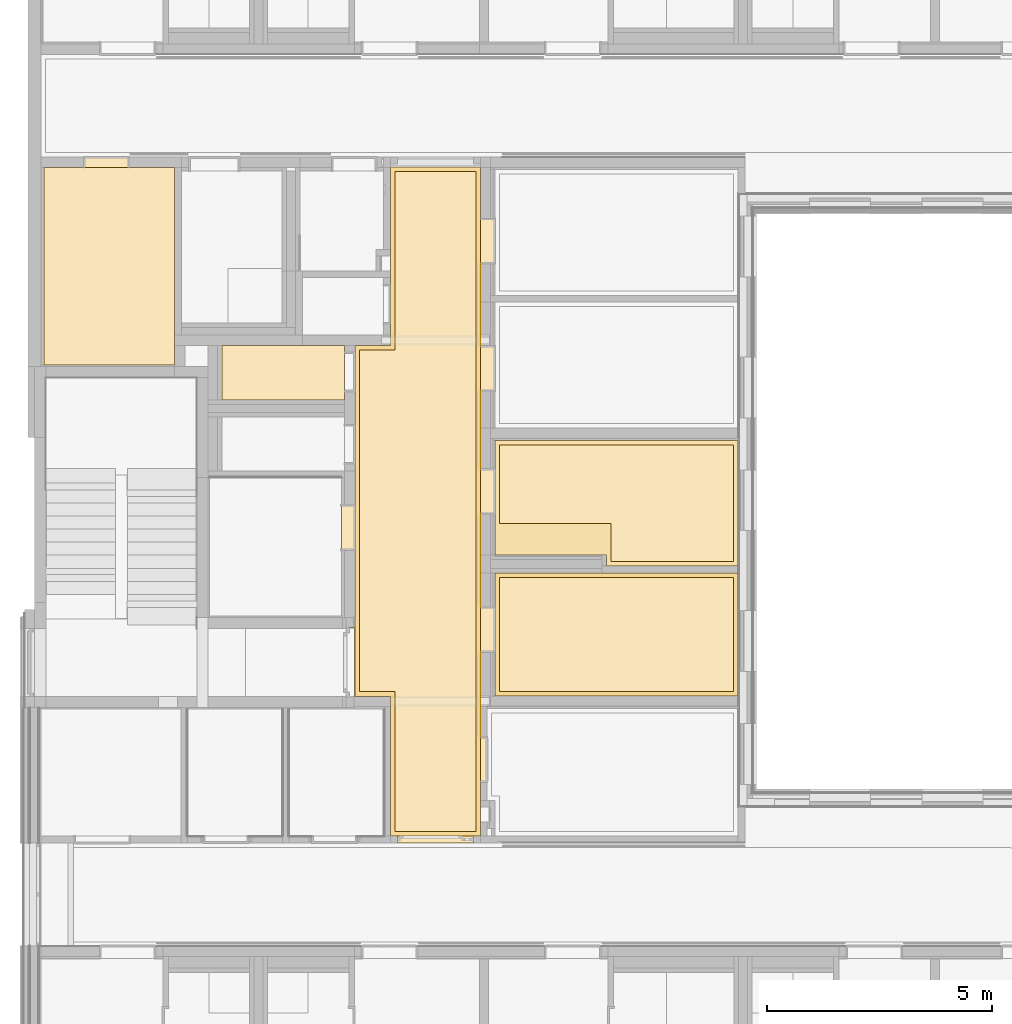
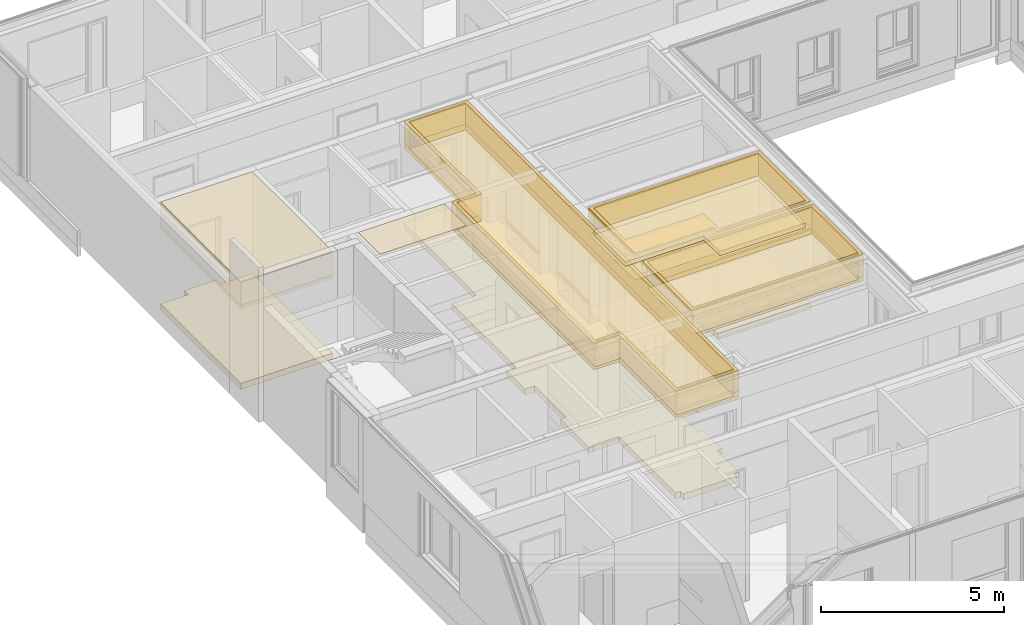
# One storey, part 162 of 207: 32 coverings.
"""IFC4 building model written with IfcOpenShell, lengths in metres."""

from ifc_helpers import new_model, entity, si_unit, converted_unit, derived_unit, frame, frame_2d, origin, origin_with_axes, place, context, subcontext, project, spatial, polyline, rectangle, outline, extrude, material, layer, layer_set, layer_usage, element, save


model = new_model("IFC4")

# Units and contexts
model_context = context("Model", 3, precision=1e-05, world=origin())
body_context = subcontext(model_context, "Body", "Model", "MODEL_VIEW")
ifc_project = project(units=[si_unit("LENGTHUNIT", "METRE"), si_unit("AREAUNIT", "SQUARE_METRE"), si_unit("VOLUMEUNIT", "CUBIC_METRE"), si_unit("MASSUNIT", "GRAM", prefix="KILO"), converted_unit("PLANEANGLEUNIT", "DEGREE", entity("IfcPlaneAngleMeasure", 0.0174532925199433), si_unit("PLANEANGLEUNIT", "RADIAN"), dimensions=[0, 0, 0, 0, 0, 0, 0]), derived_unit("THERMALTRANSMITTANCEUNIT", [(si_unit("POWERUNIT", "WATT"), 1), (si_unit("THERMODYNAMICTEMPERATUREUNIT", "KELVIN"), -1), (si_unit("LENGTHUNIT", "METRE"), -2)]), derived_unit("VOLUMETRICFLOWRATEUNIT", [(si_unit("LENGTHUNIT", "METRE"), 3), (converted_unit("TIMEUNIT", "hour", entity("IfcTimeMeasure", 3600.0), si_unit("TIMEUNIT", "SECOND"), dimensions=[0, 0, 1, 0, 0, 0, 0]), -1), (si_unit("LENGTHUNIT", "METRE"), -1)])], contexts=[model_context])

# Site, building, storey, space
site_placement = place(None, origin())
site = spatial("IfcSite", under=ifc_project, at=site_placement, Name="Psychiatrie Neubau Wunstorf", CompositionType="ELEMENT")
building_placement = place(site_placement, origin())
building = spatial("IfcBuilding", under=site, at=building_placement, Name="Neubau H2 Stationsgebäude", CompositionType="ELEMENT")
storey_placement = place(building_placement, frame((0.0, 0.0, -0.2)))
storey = spatial("IfcBuildingStorey", under=building, at=storey_placement, Name="H2 Ebene 0", CompositionType="ELEMENT", Elevation=-0.2)
space_1_placement = place(storey_placement, frame((7.1409987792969, 6.77999989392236, 0.0)))
space_1 = spatial("IfcSpace", under=storey, at=space_1_placement, Name="WUN-H2-E00-F05", CompositionType="ELEMENT")

# Coverings
ifc_material_1 = material(Name="97")
ifc_layer_1 = layer(ifc_material_1, 0.001)
ifc_layer_set_1 = layer_set([ifc_layer_1])
ifc_layer_usage_1 = layer_usage(ifc_layer_set_1, "AXIS3", "POSITIVE", 0.0)
covering_1_placement = place(space_1_placement, frame((2.77650123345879, 2.195, 0.8)))
element("IfcCovering", 1, at=covering_1_placement, inside=space_1, material=ifc_layer_usage_1, Name="Handlauf", PredefinedType="CLADDING", context=body_context, shape_type="SweptSolid", body=[
    extrude(rectangle(XDim=0.1, YDim=2.05399989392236, at=frame_2d((1.02699994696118, 0.05), x_axis=(0.0, 1.0))), frame((0.0, 2.88600010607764, 0.1), z_axis=(-1.0, -1.66545093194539e-09, -9.09494701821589e-15), x_axis=(-1.66545093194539e-09, 1.0, 0.0)), (0.0, 0.0, 1.0), 0.001),
    extrude(rectangle(XDim=0.1, YDim=1.81398678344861, at=frame_2d((0.906993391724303, 0.05), x_axis=(0.0, 1.0))), frame((0.0, 8.67901332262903, 0.1), z_axis=(-1.0, -1.6654503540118e-09, 0.0), x_axis=(-1.6654503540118e-09, 1.0, 0.0)), (0.0, 0.0, 1.0), 0.001),
    extrude(rectangle(XDim=0.1, YDim=1.71901332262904, at=frame_2d((0.859506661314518, 0.05), x_axis=(0.0, 1.0))), frame((0.0, 5.95, 0.1), z_axis=(-1.0, -1.6654512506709e-09, 0.0), x_axis=(-1.6654512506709e-09, 1.0, 0.0)), (0.0, 0.0, 1.0), 0.001),
    extrude(rectangle(XDim=0.1, YDim=1.87600010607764, at=frame_2d((-0.938000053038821, -0.05), x_axis=(0.0, -1.0))), frame((0.0, 1.87600010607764, 0.0), z_axis=(-1.0, -1.6654509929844e-09, 9.09494701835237e-15), x_axis=(-1.6654509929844e-09, 1.0, 0.0)), (0.0, 0.0, 1.0), 0.001),
])
ifc_material_2 = material(Name="Ku1")
ifc_layer_2 = layer(ifc_material_2, 0.2)
ifc_layer_set_2 = layer_set([ifc_layer_2])
ifc_layer_usage_2 = layer_usage(ifc_layer_set_2, "AXIS3", "POSITIVE", 0.0)
covering_2_placement = place(space_1_placement, frame((-0.307000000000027, -0.155, 0.0)))
element("IfcCovering", 2, at=covering_2_placement, inside=space_1, material=ifc_layer_usage_2, Name="PVC Bahnenware Holzoptik", PredefinedType="FLOORING", context=body_context, shape_type="SweptSolid", body=[
    extrude(rectangle(XDim=0.3215, YDim=1.01, at=frame_2d((-0.16075, -0.505), x_axis=(-1.0, 0.0))), frame((3.40500124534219, 5.23600010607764, 0.0), z_axis=(0.0, 0.0, 1.0), x_axis=(1.0, 0.0, 0.0)), (0.0, 0.0, 1.0), 0.2),
    extrude(rectangle(XDim=0.15, YDim=1.01, at=frame_2d((-0.075, -0.505), x_axis=(-1.0, 0.0))), frame((3.23350124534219, 2.35, 0.0), z_axis=(0.0, 0.0, 1.0), x_axis=(1.0, 0.0, 0.0)), (0.0, 0.0, 1.0), 0.2),
    extrude(rectangle(XDim=0.155, YDim=1.6825, at=frame_2d((-0.84125, 0.0775), x_axis=(0.0, 1.0))), frame((2.92850123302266, 0.0, 0.0), z_axis=(0.0, 0.0, 1.0), x_axis=(1.0, 0.0, 0.0)), (0.0, 0.0, 1.0), 0.2),
    extrude(rectangle(XDim=0.307, YDim=1.01, at=frame_2d((0.1535, 0.505), x_axis=(1.0, 0.0))), frame((0.0, 6.49, 0.0), z_axis=(0.0, 0.0, 1.0), x_axis=(1.0, 0.0, 0.0)), (0.0, 0.0, 1.0), 0.2),
    extrude(outline(polyline([(0.154989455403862, 0.0300129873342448), (0.185011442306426, 0.0300129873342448), (0.185000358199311, 1.56), (0.0, 1.56), (2.18644205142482e-06, 0.0), (0.154978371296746, 0.0), (0.154989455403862, 0.0300129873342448)])), frame((0.121999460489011, 3.21998786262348, 0.0), z_axis=(0.0, 0.0, 1.0), x_axis=(1.0, 0.0, 0.0)), (0.0, 0.0, 1.0), 0.2),
    extrude(rectangle(XDim=1.01, YDim=0.3215, at=frame_2d((0.16075, -0.505), x_axis=(0.0, -1.0))), frame((3.0835012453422, 8.3, 0.0), z_axis=(0.0, 0.0, 1.0), x_axis=(1.0, 0.0, 0.0)), (0.0, 0.0, 1.0), 0.2),
    extrude(rectangle(XDim=0.3215, YDim=1.01, at=frame_2d((-0.16075, -0.505), x_axis=(-1.0, 0.0))), frame((3.40500124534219, 13.8530001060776, 0.0), z_axis=(0.0, 0.0, 1.0), x_axis=(1.0, 0.0, 0.0)), (0.0, 0.0, 1.0), 0.2),
    extrude(rectangle(XDim=1.01, YDim=0.3215, at=frame_2d((0.16075, -0.505), x_axis=(0.0, -1.0))), frame((3.0835012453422, 11.029013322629, 0.0), z_axis=(0.0, 0.0, 1.0), x_axis=(1.0, 0.0, 0.0)), (0.0, 0.0, 1.0), 0.2),
    extrude(outline(polyline([(0.783993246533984, 10.8740133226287), (0.0, 10.8740133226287), (1.09027954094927e-05, 3.09500084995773), (0.784012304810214, 3.09500084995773), (0.784001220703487, 0.0), (2.77650124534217, 0.0), (2.7765012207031, 14.8410001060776), (0.784001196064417, 14.8410001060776), (0.783993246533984, 10.8740133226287)])), frame((0.307000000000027, 0.155, 0.0), z_axis=(0.0, 0.0, 1.0), x_axis=(1.0, 0.0, 0.0)), (0.0, 0.0, 1.0), 0.2),
])
ifc_material_3 = material()
ifc_layer_3 = layer(ifc_material_3, 0.036)
ifc_layer_set_3 = layer_set([ifc_layer_3])
ifc_layer_usage_3 = layer_usage(ifc_layer_set_3, "AXIS3", "POSITIVE", 0.0)
covering_3_placement = place(space_1_placement, frame((0.0999999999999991, 0.1, 3.6)))
element("IfcCovering", 3, at=covering_3_placement, inside=space_1, material=ifc_layer_usage_3, Name="Gipsfaserplatten 2-lagig (BSK)", PredefinedType="CEILING", context=body_context, shape_type="SweptSolid", body=[
    extrude(outline(polyline([(0.78400122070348, 14.6410001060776), (0.784001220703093, 11.5390005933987), (0.0, 11.5390005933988), (0.0, 3.9669867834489), (0.783993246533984, 3.9669867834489), (0.784001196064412, 0.0), (2.57650120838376, 0.0), (2.57650123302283, 14.6410001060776), (0.78400122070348, 14.6410001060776)])), frame((0.0, 14.6410001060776, 0.0), z_axis=(0.0, 0.0, -1.0), x_axis=(1.0, 0.0, 0.0)), (0.0, 0.0, 1.0), 0.036),
])
ifc_material_4 = material(Name="Installationshöhe")
ifc_layer_4 = layer(ifc_material_4, 0.664)
ifc_layer_set_4 = layer_set([ifc_layer_4])
ifc_layer_usage_4 = layer_usage(ifc_layer_set_4, "AXIS3", "POSITIVE", 0.0)
covering_4_placement = place(space_1_placement, frame((0.0999999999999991, 0.1, 3.564)))
element("IfcCovering", 4, at=covering_4_placement, inside=space_1, material=ifc_layer_usage_4, Name="Gipsfaserplatten 2-lagig (BSK)", PredefinedType="CEILING", context=body_context, shape_type="SweptSolid", body=[
    extrude(outline(polyline([(0.78400122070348, 14.6410001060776), (0.784001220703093, 11.5390005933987), (0.0, 11.5390005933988), (0.0, 3.9669867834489), (0.783993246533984, 3.9669867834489), (0.784001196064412, 0.0), (2.57650120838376, 0.0), (2.57650123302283, 14.6410001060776), (0.78400122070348, 14.6410001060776)])), frame((0.0, 14.6410001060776, 0.0), z_axis=(0.0, 0.0, -1.0), x_axis=(1.0, 0.0, 0.0)), (0.0, 0.0, 1.0), 0.664),
])
ifc_material_5 = material(Name="Aa")
ifc_layer_5 = layer(ifc_material_5, 0.2)
ifc_layer_set_5 = layer_set([ifc_layer_5])
ifc_layer_usage_5 = layer_usage(ifc_layer_set_5, "AXIS3", "POSITIVE", 0.0)
covering_5_placement = place(space_1_placement, frame((0.0999999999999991, 0.1, 2.9)))
element("IfcCovering", 5, at=covering_5_placement, inside=space_1, material=ifc_layer_usage_5, Name="Gipsfaserplatten 2-lagig (BSK)", PredefinedType="CEILING", context=body_context, shape_type="SweptSolid", body=[
    extrude(outline(polyline([(0.78400122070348, 14.6410001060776), (0.784001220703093, 11.5390005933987), (0.0, 11.5390005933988), (0.0, 3.9669867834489), (0.783993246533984, 3.9669867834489), (0.784001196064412, 0.0), (2.57650120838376, 0.0), (2.57650123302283, 14.6410001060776), (0.78400122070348, 14.6410001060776)])), frame((0.0, 14.6410001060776, 0.0), z_axis=(0.0, 0.0, -1.0), x_axis=(1.0, 0.0, 0.0)), (0.0, 0.0, 1.0), 0.2),
])
ifc_material_6 = material(Name="D1")
ifc_layer_6 = layer(ifc_material_6, 0.001)
ifc_layer_set_6 = layer_set([ifc_layer_6])
ifc_layer_usage_6 = layer_usage(ifc_layer_set_6, "AXIS3", "POSITIVE", 0.0)
covering_6_placement = place(space_1_placement, frame((0.0999999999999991, 0.1, 2.7)))
element("IfcCovering", 6, at=covering_6_placement, inside=space_1, material=ifc_layer_usage_6, Name="Gipsfaserplatten 2-lagig (BSK)", PredefinedType="CEILING", context=body_context, shape_type="SweptSolid", body=[
    extrude(outline(polyline([(0.78400122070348, 14.6410001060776), (0.784001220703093, 11.5390005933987), (0.0, 11.5390005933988), (0.0, 3.9669867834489), (0.783993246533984, 3.9669867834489), (0.784001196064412, 0.0), (2.57650120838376, 0.0), (2.57650123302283, 14.6410001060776), (0.78400122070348, 14.6410001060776)])), frame((0.0, 14.6410001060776, 0.0), z_axis=(0.0, 0.0, -1.0), x_axis=(1.0, 0.0, 0.0)), (0.0, 0.0, 1.0), 0.001),
])
ifc_material_7 = material()
ifc_layer_7 = layer(ifc_material_7, 0.036)
ifc_layer_set_7 = layer_set([ifc_layer_7])
ifc_layer_usage_7 = layer_usage(ifc_layer_set_7, "AXIS3", "POSITIVE", 0.0)
covering_7_placement = place(space_1_placement, frame((0.0, 0.0, 3.6)))
element("IfcCovering", 7, at=covering_7_placement, inside=space_1, material=ifc_layer_usage_7, Name="Gipsfaserplatten 2-lagig (BSK)", PredefinedType="CEILING", context=body_context, shape_type="SweptSolid", body=[
    extrude(outline(polyline([(0.0, 3.9669867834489), (0.783993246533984, 3.9669867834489), (0.784001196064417, 0.0), (2.7765012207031, 0.0), (2.77650124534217, 14.8410001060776), (0.784001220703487, 14.8410001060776), (0.784012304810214, 11.7459992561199), (1.09027954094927e-05, 11.7459992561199), (0.0, 3.9669867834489)]), holes=[polyline([(0.884001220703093, 11.6390005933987), (0.88400122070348, 14.7410001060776), (2.67650123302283, 14.7410001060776), (2.67650120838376, 0.1), (0.884001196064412, 0.1), (0.883993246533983, 4.0669867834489), (0.1, 4.0669867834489), (0.1, 11.6390005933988), (0.884001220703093, 11.6390005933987)])]), frame((0.0, 14.8410001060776, 0.0), z_axis=(0.0, 0.0, -1.0), x_axis=(1.0, 0.0, 0.0)), (0.0, 0.0, 1.0), 0.036),
])
ifc_material_8 = material(Name="Installationshöhe")
ifc_layer_8 = layer(ifc_material_8, 0.664)
ifc_layer_set_8 = layer_set([ifc_layer_8])
ifc_layer_usage_8 = layer_usage(ifc_layer_set_8, "AXIS3", "POSITIVE", 0.0)
covering_8_placement = place(space_1_placement, frame((0.0, 0.0, 3.564)))
element("IfcCovering", 8, at=covering_8_placement, inside=space_1, material=ifc_layer_usage_8, Name="Gipsfaserplatten 2-lagig (BSK)", PredefinedType="CEILING", context=body_context, shape_type="SweptSolid", body=[
    extrude(outline(polyline([(0.0, 3.9669867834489), (0.783993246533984, 3.9669867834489), (0.784001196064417, 0.0), (2.7765012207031, 0.0), (2.77650124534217, 14.8410001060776), (0.784001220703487, 14.8410001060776), (0.784012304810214, 11.7459992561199), (1.09027954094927e-05, 11.7459992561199), (0.0, 3.9669867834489)]), holes=[polyline([(0.884001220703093, 11.6390005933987), (0.88400122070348, 14.7410001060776), (2.67650123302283, 14.7410001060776), (2.67650120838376, 0.1), (0.884001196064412, 0.1), (0.883993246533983, 4.0669867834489), (0.1, 4.0669867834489), (0.1, 11.6390005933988), (0.884001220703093, 11.6390005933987)])]), frame((0.0, 14.8410001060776, 0.0), z_axis=(0.0, 0.0, -1.0), x_axis=(1.0, 0.0, 0.0)), (0.0, 0.0, 1.0), 0.664),
])
ifc_material_9 = material(Name="A1")
ifc_layer_9 = layer(ifc_material_9, 0.2)
ifc_layer_set_9 = layer_set([ifc_layer_9])
ifc_layer_usage_9 = layer_usage(ifc_layer_set_9, "AXIS3", "POSITIVE", 0.0)
covering_9_placement = place(space_1_placement, frame((0.0, 0.0, 2.9)))
element("IfcCovering", 9, at=covering_9_placement, inside=space_1, material=ifc_layer_usage_9, Name="Gipsfaserplatten 2-lagig (BSK)", PredefinedType="CEILING", context=body_context, shape_type="SweptSolid", body=[
    extrude(outline(polyline([(0.0, 3.9669867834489), (0.783993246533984, 3.9669867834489), (0.784001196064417, 0.0), (2.7765012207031, 0.0), (2.77650124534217, 14.8410001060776), (0.784001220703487, 14.8410001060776), (0.784012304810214, 11.7459992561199), (1.09027954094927e-05, 11.7459992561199), (0.0, 3.9669867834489)]), holes=[polyline([(0.884001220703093, 11.6390005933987), (0.88400122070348, 14.7410001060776), (2.67650123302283, 14.7410001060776), (2.67650120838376, 0.1), (0.884001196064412, 0.1), (0.883993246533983, 4.0669867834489), (0.1, 4.0669867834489), (0.1, 11.6390005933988), (0.884001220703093, 11.6390005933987)])]), frame((0.0, 14.8410001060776, 0.0), z_axis=(0.0, 0.0, -1.0), x_axis=(1.0, 0.0, 0.0)), (0.0, 0.0, 1.0), 0.2),
])
ifc_material_10 = material(Name="D1")
ifc_layer_10 = layer(ifc_material_10, 0.001)
ifc_layer_set_10 = layer_set([ifc_layer_10])
ifc_layer_usage_10 = layer_usage(ifc_layer_set_10, "AXIS3", "POSITIVE", 0.0)
covering_10_placement = place(space_1_placement, frame((0.0, 0.0, 2.7)))
element("IfcCovering", 10, at=covering_10_placement, inside=space_1, material=ifc_layer_usage_10, Name="Gipsfaserplatten 2-lagig (BSK)", PredefinedType="CEILING", context=body_context, shape_type="SweptSolid", body=[
    extrude(outline(polyline([(0.0, 3.9669867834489), (0.783993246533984, 3.9669867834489), (0.784001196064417, 0.0), (2.7765012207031, 0.0), (2.77650124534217, 14.8410001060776), (0.784001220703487, 14.8410001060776), (0.784012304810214, 11.7459992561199), (1.09027954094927e-05, 11.7459992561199), (0.0, 3.9669867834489)]), holes=[polyline([(0.884001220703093, 11.6390005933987), (0.88400122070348, 14.7410001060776), (2.67650123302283, 14.7410001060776), (2.67650120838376, 0.1), (0.884001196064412, 0.1), (0.883993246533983, 4.0669867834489), (0.1, 4.0669867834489), (0.1, 11.6390005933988), (0.884001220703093, 11.6390005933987)])]), frame((0.0, 14.8410001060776, 0.0), z_axis=(0.0, 0.0, -1.0), x_axis=(1.0, 0.0, 0.0)), (0.0, 0.0, 1.0), 0.001),
])

# Space
space_2_placement = place(storey_placement, frame((0.244000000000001, 17.2249995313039, 0.0)))
space_2 = spatial("IfcSpace", under=storey, at=space_2_placement, Name="WUN-H2-E00-040", CompositionType="ELEMENT")

# Coverings
ifc_material_11 = material()
ifc_layer_11 = layer(ifc_material_11, 0.036)
ifc_layer_set_11 = layer_set([ifc_layer_11])
ifc_layer_usage_11 = layer_usage(ifc_layer_set_11, "AXIS3", "POSITIVE", 0.0)
covering_11_placement = place(space_2_placement, frame((0.0, 0.0, 3.6)))
element("IfcCovering", 11, at=covering_11_placement, inside=space_2, material=ifc_layer_usage_11, Name="Gipsfaserplatten 2-lagig (BSK)", PredefinedType="CEILING", context=body_context, shape_type="SweptSolid", body=[
    extrude(rectangle(XDim=2.89499999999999, YDim=4.37900046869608, at=frame_2d((1.4475, 2.18950023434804), x_axis=(1.0, 0.0))), frame((0.0, 4.37900046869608, 0.0), z_axis=(0.0, 0.0, -1.0), x_axis=(1.0, 0.0, 0.0)), (0.0, 0.0, 1.0), 0.036),
])
ifc_material_12 = material(Name="Installationshöhe")
ifc_layer_12 = layer(ifc_material_12, 0.764)
ifc_layer_set_12 = layer_set([ifc_layer_12])
ifc_layer_usage_12 = layer_usage(ifc_layer_set_12, "AXIS3", "POSITIVE", 0.0)
covering_12_placement = place(space_2_placement, frame((0.0, 0.0, 3.564)))
element("IfcCovering", 12, at=covering_12_placement, inside=space_2, material=ifc_layer_usage_12, Name="Gipsfaserplatten 2-lagig (BSK)", PredefinedType="CEILING", context=body_context, shape_type="SweptSolid", body=[
    extrude(rectangle(XDim=2.89499999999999, YDim=4.37900046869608, at=frame_2d((1.4475, 2.18950023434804), x_axis=(1.0, 0.0))), frame((0.0, 4.37900046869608, 0.0), z_axis=(0.0, 0.0, -1.0), x_axis=(1.0, 0.0, 0.0)), (0.0, 0.0, 1.0), 0.764),
])
ifc_material_13 = material(Name="E3")
ifc_layer_13 = layer(ifc_material_13, 0.1)
ifc_layer_set_13 = layer_set([ifc_layer_13])
ifc_layer_usage_13 = layer_usage(ifc_layer_set_13, "AXIS3", "POSITIVE", 0.0)
covering_13_placement = place(space_2_placement, frame((0.0, 0.0, 2.8)))
element("IfcCovering", 13, at=covering_13_placement, inside=space_2, material=ifc_layer_usage_13, Name="Rasterdecke", PredefinedType="CEILING", context=body_context, shape_type="SweptSolid", body=[
    extrude(rectangle(XDim=2.89499999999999, YDim=4.37900046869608, at=frame_2d((1.4475, 2.18950023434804), x_axis=(1.0, 0.0))), frame((0.0, 4.37900046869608, 0.0), z_axis=(0.0, 0.0, -1.0), x_axis=(1.0, 0.0, 0.0)), (0.0, 0.0, 1.0), 0.1),
])
ifc_material_14 = material(Name="Ku2")
ifc_layer_14 = layer(ifc_material_14, 0.2)
ifc_layer_set_14 = layer_set([ifc_layer_14])
ifc_layer_usage_14 = layer_usage(ifc_layer_set_14, "AXIS3", "POSITIVE", 0.0)
covering_14_placement = place(space_2_placement, origin())
element("IfcCovering", 14, at=covering_14_placement, inside=space_2, material=ifc_layer_usage_14, Name="PVC Bahnenware Uni", PredefinedType="FLOORING", context=body_context, shape_type="SweptSolid", body=[
    extrude(rectangle(XDim=0.232, YDim=1.01, at=frame_2d((0.505, -0.116), x_axis=(0.0, -1.0))), frame((0.873454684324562, 4.61100046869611, 0.0), z_axis=(0.0, 0.0, 1.0), x_axis=(1.0, 0.0, 0.0)), (0.0, 0.0, 1.0), 0.2),
    extrude(rectangle(XDim=2.89499999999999, YDim=4.37900046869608, at=frame_2d((-1.4475, -2.18950023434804), x_axis=(-1.0, 0.0))), frame((2.89499999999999, 4.37900046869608, 0.0), z_axis=(0.0, 0.0, 1.0), x_axis=(1.0, 0.0, 0.0)), (0.0, 0.0, 1.0), 0.2),
])

# Space
space_3_placement = place(storey_placement, frame((4.18999999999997, 16.4520132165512, 0.0)))
space_3 = spatial("IfcSpace", under=storey, at=space_3_placement, Name="WUN-H2-E00-031", CompositionType="ELEMENT")

# Covering
ifc_material_15 = material()
ifc_layer_15 = layer(ifc_material_15, 0.036)
ifc_layer_set_15 = layer_set([ifc_layer_15])
ifc_layer_usage_15 = layer_usage(ifc_layer_set_15, "AXIS3", "POSITIVE", 0.0)
covering_15_placement = place(space_3_placement, frame((0.0, 0.0, 3.6)))
element("IfcCovering", 15, at=covering_15_placement, inside=space_3, material=ifc_layer_usage_15, Name="Gipsfaserplatten 2-lagig (BSK)", PredefinedType="CEILING", context=body_context, shape_type="SweptSolid", body=[
    extrude(rectangle(XDim=2.7189987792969, YDim=1.20199999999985, at=frame_2d((1.35949938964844, 0.600999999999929), x_axis=(1.0, 1.33798471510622e-15))), frame((0.0, 1.20199999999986, 0.0), z_axis=(0.0, 0.0, -1.0), x_axis=(1.0, 0.0, 0.0)), (0.0, 0.0, 1.0), 0.036),
])

# Space
space_4_placement = place(storey_placement, frame((10.2390000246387, 9.88249989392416, 0.0)))
space_4 = spatial("IfcSpace", under=storey, at=space_4_placement, Name="WUN-H2-E00-036", CompositionType="ELEMENT")

# Coverings
ifc_material_16 = material()
ifc_layer_16 = layer(ifc_material_16, 0.036)
ifc_layer_set_16 = layer_set([ifc_layer_16])
ifc_layer_usage_16 = layer_usage(ifc_layer_set_16, "AXIS3", "POSITIVE", 0.0)
covering_16_placement = place(space_4_placement, frame((0.0, 0.0, 3.6)))
element("IfcCovering", 16, at=covering_16_placement, inside=space_4, material=ifc_layer_usage_16, Name="Gipsfaserplatten 2-lagig (BSK)", PredefinedType="CEILING", context=body_context, shape_type="SweptSolid", body=[
    extrude(outline(polyline([(5.39999997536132, 2.72850010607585), (0.0, 2.72850010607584), (0.0, 0.0), (5.39999997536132, 0.0), (5.39999997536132, 2.72850010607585)]), holes=[polyline([(0.1, 0.1), (0.1, 2.62850010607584), (5.29999997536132, 2.62850010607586), (5.29999997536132, 0.100000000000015), (0.1, 0.1)])]), frame((0.0, 2.72850010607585, 0.0), z_axis=(0.0, 0.0, -1.0), x_axis=(1.0, 0.0, 0.0)), (0.0, 0.0, 1.0), 0.036),
])
ifc_material_17 = material(Name="Installationshöhe")
ifc_layer_17 = layer(ifc_material_17, 0.714)
ifc_layer_set_17 = layer_set([ifc_layer_17])
ifc_layer_usage_17 = layer_usage(ifc_layer_set_17, "AXIS3", "POSITIVE", 0.0)
covering_17_placement = place(space_4_placement, frame((0.0, 0.0, 3.564)))
element("IfcCovering", 17, at=covering_17_placement, inside=space_4, material=ifc_layer_usage_17, Name="Gipsfaserplatten 2-lagig (BSK)", PredefinedType="CEILING", context=body_context, shape_type="SweptSolid", body=[
    extrude(outline(polyline([(5.39999997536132, 2.72850010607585), (0.0, 2.72850010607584), (0.0, 0.0), (5.39999997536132, 0.0), (5.39999997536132, 2.72850010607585)]), holes=[polyline([(0.1, 0.1), (0.1, 2.62850010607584), (5.29999997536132, 2.62850010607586), (5.29999997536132, 0.100000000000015), (0.1, 0.1)])]), frame((0.0, 2.72850010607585, 0.0), z_axis=(0.0, 0.0, -1.0), x_axis=(1.0, 0.0, 0.0)), (0.0, 0.0, 1.0), 0.714),
])
ifc_material_18 = material(Name="A1")
ifc_layer_18 = layer(ifc_material_18, 0.15)
ifc_layer_set_18 = layer_set([ifc_layer_18])
ifc_layer_usage_18 = layer_usage(ifc_layer_set_18, "AXIS3", "POSITIVE", 0.0)
covering_18_placement = place(space_4_placement, frame((0.0, 0.0, 2.85)))
element("IfcCovering", 18, at=covering_18_placement, inside=space_4, material=ifc_layer_usage_18, Name="Gipsfaserplatten 2-lagig (BSK)", PredefinedType="CEILING", context=body_context, shape_type="SweptSolid", body=[
    extrude(outline(polyline([(5.39999997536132, 2.72850010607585), (0.0, 2.72850010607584), (0.0, 0.0), (5.39999997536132, 0.0), (5.39999997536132, 2.72850010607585)]), holes=[polyline([(0.1, 0.1), (0.1, 2.62850010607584), (5.29999997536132, 2.62850010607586), (5.29999997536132, 0.100000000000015), (0.1, 0.1)])]), frame((0.0, 2.72850010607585, 0.0), z_axis=(0.0, 0.0, -1.0), x_axis=(1.0, 0.0, 0.0)), (0.0, 0.0, 1.0), 0.15),
])
ifc_material_19 = material(Name="D1")
ifc_layer_19 = layer(ifc_material_19, 0.001)
ifc_layer_set_19 = layer_set([ifc_layer_19])
ifc_layer_usage_19 = layer_usage(ifc_layer_set_19, "AXIS3", "POSITIVE", 0.0)
covering_19_placement = place(space_4_placement, frame((0.0, 0.0, 2.7)))
element("IfcCovering", 19, at=covering_19_placement, inside=space_4, material=ifc_layer_usage_19, Name="Gipsfaserplatten 2-lagig (BSK)", PredefinedType="CEILING", context=body_context, shape_type="SweptSolid", body=[
    extrude(outline(polyline([(5.39999997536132, 2.72850010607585), (0.0, 2.72850010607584), (0.0, 0.0), (5.39999997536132, 0.0), (5.39999997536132, 2.72850010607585)]), holes=[polyline([(0.1, 0.1), (0.1, 2.62850010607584), (5.29999997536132, 2.62850010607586), (5.29999997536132, 0.100000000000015), (0.1, 0.1)])]), frame((0.0, 2.72850010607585, 0.0), z_axis=(0.0, 0.0, -1.0), x_axis=(1.0, 0.0, 0.0)), (0.0, 0.0, 1.0), 0.001),
])
ifc_material_20 = material()
ifc_layer_20 = layer(ifc_material_20, 0.036)
ifc_layer_set_20 = layer_set([ifc_layer_20])
ifc_layer_usage_20 = layer_usage(ifc_layer_set_20, "AXIS3", "POSITIVE", 0.0)
covering_20_placement = place(space_4_placement, frame((0.1, 0.0999999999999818, 3.6)))
element("IfcCovering", 20, at=covering_20_placement, inside=space_4, material=ifc_layer_usage_20, Name="Gipsfaserplatten 2-lagig (BSK)", PredefinedType="CEILING", context=body_context, shape_type="SweptSolid", body=[
    extrude(rectangle(XDim=2.52850010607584, YDim=5.19999997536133, at=frame_2d((2.59999998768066, -1.26425005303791), x_axis=(0.0, -1.0))), frame((0.0, 0.0, 0.0), z_axis=(0.0, 0.0, -1.0), x_axis=(1.0, 0.0, 0.0)), (0.0, 0.0, 1.0), 0.036),
])
ifc_material_21 = material(Name="Installationshöhe")
ifc_layer_21 = layer(ifc_material_21, 0.714)
ifc_layer_set_21 = layer_set([ifc_layer_21])
ifc_layer_usage_21 = layer_usage(ifc_layer_set_21, "AXIS3", "POSITIVE", 0.0)
covering_21_placement = place(space_4_placement, frame((0.1, 0.0999999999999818, 3.564)))
element("IfcCovering", 21, at=covering_21_placement, inside=space_4, material=ifc_layer_usage_21, Name="Gipsfaserplatten 2-lagig (BSK)", PredefinedType="CEILING", context=body_context, shape_type="SweptSolid", body=[
    extrude(rectangle(XDim=2.52850010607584, YDim=5.19999997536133, at=frame_2d((2.59999998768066, -1.26425005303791), x_axis=(0.0, -1.0))), frame((0.0, 0.0, 0.0), z_axis=(0.0, 0.0, -1.0), x_axis=(1.0, 0.0, 0.0)), (0.0, 0.0, 1.0), 0.714),
])
ifc_material_22 = material(Name="Aa")
ifc_layer_22 = layer(ifc_material_22, 0.15)
ifc_layer_set_22 = layer_set([ifc_layer_22])
ifc_layer_usage_22 = layer_usage(ifc_layer_set_22, "AXIS3", "POSITIVE", 0.0)
covering_22_placement = place(space_4_placement, frame((0.1, 0.0999999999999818, 2.85)))
element("IfcCovering", 22, at=covering_22_placement, inside=space_4, material=ifc_layer_usage_22, Name="Gipsfaserplatten 2-lagig (BSK)", PredefinedType="CEILING", context=body_context, shape_type="SweptSolid", body=[
    extrude(rectangle(XDim=2.52850010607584, YDim=5.19999997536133, at=frame_2d((2.59999998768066, -1.26425005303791), x_axis=(0.0, -1.0))), frame((0.0, 0.0, 0.0), z_axis=(0.0, 0.0, -1.0), x_axis=(1.0, 0.0, 0.0)), (0.0, 0.0, 1.0), 0.15),
])
ifc_material_23 = material(Name="D1")
ifc_layer_23 = layer(ifc_material_23, 0.001)
ifc_layer_set_23 = layer_set([ifc_layer_23])
ifc_layer_usage_23 = layer_usage(ifc_layer_set_23, "AXIS3", "POSITIVE", 0.0)
covering_23_placement = place(space_4_placement, frame((0.1, 0.0999999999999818, 2.7)))
element("IfcCovering", 23, at=covering_23_placement, inside=space_4, material=ifc_layer_usage_23, Name="Gipsfaserplatten 2-lagig (BSK)", PredefinedType="CEILING", context=body_context, shape_type="SweptSolid", body=[
    extrude(rectangle(XDim=2.52850010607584, YDim=5.19999997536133, at=frame_2d((2.59999998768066, -1.26425005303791), x_axis=(0.0, -1.0))), frame((0.0, 0.0, 0.0), z_axis=(0.0, 0.0, -1.0), x_axis=(1.0, 0.0, 0.0)), (0.0, 0.0, 1.0), 0.001),
])

# Space
space_5_placement = place(storey_placement, frame((10.2390000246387, 12.761, 0.0)))
space_5 = spatial("IfcSpace", under=storey, at=space_5_placement, Name="WUN-H2-E00-035", CompositionType="ELEMENT")

# Coverings
ifc_material_24 = material(Name="Ku1")
ifc_layer_24 = layer(ifc_material_24, 0.2)
ifc_layer_set_24 = layer_set([ifc_layer_24])
ifc_layer_usage_24 = layer_usage(ifc_layer_set_24, "AXIS3", "POSITIVE", 0.0)
covering_24_placement = place(space_5_placement, origin())
element("IfcCovering", 24, at=covering_24_placement, inside=space_5, material=ifc_layer_usage_24, Name="PVC Bahnenware Holzoptik", PredefinedType="FLOORING", context=body_context, shape_type="SweptSolid", body=[
    extrude(outline(polyline([(2.48000000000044, 0.25), (2.48000000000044, 0.0), (5.39999997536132, 0.0), (5.39999997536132, 2.793), (0.0, 2.793), (0.0, 0.250000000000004), (2.48000000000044, 0.25)])), origin_with_axes(), (0.0, 0.0, 1.0), 0.2),
])
ifc_material_25 = material()
ifc_layer_25 = layer(ifc_material_25, 0.036)
ifc_layer_set_25 = layer_set([ifc_layer_25])
ifc_layer_usage_25 = layer_usage(ifc_layer_set_25, "AXIS3", "POSITIVE", 0.0)
covering_25_placement = place(space_5_placement, frame((0.0, 0.0, 3.6)))
element("IfcCovering", 25, at=covering_25_placement, inside=space_5, material=ifc_layer_usage_25, Name="Gipsfaserplatten 2-lagig (BSK)", PredefinedType="CEILING", context=body_context, shape_type="SweptSolid", body=[
    extrude(outline(polyline([(0.0, 2.543), (0.0, 0.0), (5.39999997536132, 0.000500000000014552), (5.39999997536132, 2.79300000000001), (2.48000000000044, 2.793), (2.48000000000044, 2.543), (0.0, 2.543)]), holes=[polyline([(5.29999997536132, 0.100500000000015), (0.1, 0.1005), (0.0999999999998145, 1.8430002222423), (2.58000000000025, 1.8430002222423), (2.58000000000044, 2.693), (5.29999997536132, 2.69300000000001), (5.29999997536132, 0.100500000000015)])]), frame((0.0, 2.79300000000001, 0.0), z_axis=(0.0, 0.0, -1.0), x_axis=(1.0, 0.0, 0.0)), (0.0, 0.0, 1.0), 0.036),
])
ifc_material_26 = material(Name="Installationshöhe")
ifc_layer_26 = layer(ifc_material_26, 0.714)
ifc_layer_set_26 = layer_set([ifc_layer_26])
ifc_layer_usage_26 = layer_usage(ifc_layer_set_26, "AXIS3", "POSITIVE", 0.0)
covering_26_placement = place(space_5_placement, frame((0.0, 0.0, 3.564)))
element("IfcCovering", 26, at=covering_26_placement, inside=space_5, material=ifc_layer_usage_26, Name="Gipsfaserplatten 2-lagig (BSK)", PredefinedType="CEILING", context=body_context, shape_type="SweptSolid", body=[
    extrude(outline(polyline([(0.0, 2.543), (0.0, 0.0), (5.39999997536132, 0.000500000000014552), (5.39999997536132, 2.79300000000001), (2.48000000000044, 2.793), (2.48000000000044, 2.543), (0.0, 2.543)]), holes=[polyline([(5.29999997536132, 0.100500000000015), (0.1, 0.1005), (0.0999999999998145, 1.8430002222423), (2.58000000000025, 1.8430002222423), (2.58000000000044, 2.693), (5.29999997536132, 2.69300000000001), (5.29999997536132, 0.100500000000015)])]), frame((0.0, 2.79300000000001, 0.0), z_axis=(0.0, 0.0, -1.0), x_axis=(1.0, 0.0, 0.0)), (0.0, 0.0, 1.0), 0.714),
])
ifc_material_27 = material(Name="A1")
ifc_layer_27 = layer(ifc_material_27, 0.15)
ifc_layer_set_27 = layer_set([ifc_layer_27])
ifc_layer_usage_27 = layer_usage(ifc_layer_set_27, "AXIS3", "POSITIVE", 0.0)
covering_27_placement = place(space_5_placement, frame((0.0, 0.0, 2.85)))
element("IfcCovering", 27, at=covering_27_placement, inside=space_5, material=ifc_layer_usage_27, Name="Gipsfaserplatten 2-lagig (BSK)", PredefinedType="CEILING", context=body_context, shape_type="SweptSolid", body=[
    extrude(outline(polyline([(0.0, 2.543), (0.0, 0.0), (5.39999997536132, 0.000500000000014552), (5.39999997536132, 2.79300000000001), (2.48000000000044, 2.793), (2.48000000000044, 2.543), (0.0, 2.543)]), holes=[polyline([(5.29999997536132, 0.100500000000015), (0.1, 0.1005), (0.0999999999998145, 1.8430002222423), (2.58000000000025, 1.8430002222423), (2.58000000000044, 2.693), (5.29999997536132, 2.69300000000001), (5.29999997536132, 0.100500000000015)])]), frame((0.0, 2.79300000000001, 0.0), z_axis=(0.0, 0.0, -1.0), x_axis=(1.0, 0.0, 0.0)), (0.0, 0.0, 1.0), 0.15),
])
ifc_material_28 = material(Name="D1")
ifc_layer_28 = layer(ifc_material_28, 0.001)
ifc_layer_set_28 = layer_set([ifc_layer_28])
ifc_layer_usage_28 = layer_usage(ifc_layer_set_28, "AXIS3", "POSITIVE", 0.0)
covering_28_placement = place(space_5_placement, frame((0.0, 0.0, 2.7)))
element("IfcCovering", 28, at=covering_28_placement, inside=space_5, material=ifc_layer_usage_28, Name="Gipsfaserplatten 2-lagig (BSK)", PredefinedType="CEILING", context=body_context, shape_type="SweptSolid", body=[
    extrude(outline(polyline([(0.0, 2.543), (0.0, 0.0), (5.39999997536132, 0.000500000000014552), (5.39999997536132, 2.79300000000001), (2.48000000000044, 2.793), (2.48000000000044, 2.543), (0.0, 2.543)]), holes=[polyline([(5.29999997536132, 0.100500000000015), (0.1, 0.1005), (0.0999999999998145, 1.8430002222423), (2.58000000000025, 1.8430002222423), (2.58000000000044, 2.693), (5.29999997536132, 2.69300000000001), (5.29999997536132, 0.100500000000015)])]), frame((0.0, 2.79300000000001, 0.0), z_axis=(0.0, 0.0, -1.0), x_axis=(1.0, 0.0, 0.0)), (0.0, 0.0, 1.0), 0.001),
])
ifc_material_29 = material()
ifc_layer_29 = layer(ifc_material_29, 0.036)
ifc_layer_set_29 = layer_set([ifc_layer_29])
ifc_layer_usage_29 = layer_usage(ifc_layer_set_29, "AXIS3", "POSITIVE", 0.0)
covering_29_placement = place(space_5_placement, frame((0.0999999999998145, 0.0999999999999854, 3.6)))
element("IfcCovering", 29, at=covering_29_placement, inside=space_5, material=ifc_layer_usage_29, Name="Gipsfaserplatten 2-lagig (BSK)", PredefinedType="CEILING", context=body_context, shape_type="SweptSolid", body=[
    extrude(outline(polyline([(0.0, 1.7425002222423), (0.0, 0.0), (5.1999999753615, 0.0), (5.1999999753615, 2.59250000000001), (2.48000000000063, 2.5925), (2.48000000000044, 1.7425002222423), (0.0, 1.7425002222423)])), frame((0.0, 2.59250000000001, 0.0), z_axis=(0.0, 0.0, -1.0), x_axis=(1.0, 0.0, 0.0)), (0.0, 0.0, 1.0), 0.036),
])
ifc_material_30 = material(Name="Installationshöhe")
ifc_layer_30 = layer(ifc_material_30, 0.714)
ifc_layer_set_30 = layer_set([ifc_layer_30])
ifc_layer_usage_30 = layer_usage(ifc_layer_set_30, "AXIS3", "POSITIVE", 0.0)
covering_30_placement = place(space_5_placement, frame((0.0999999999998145, 0.0999999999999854, 3.564)))
element("IfcCovering", 30, at=covering_30_placement, inside=space_5, material=ifc_layer_usage_30, Name="Gipsfaserplatten 2-lagig (BSK)", PredefinedType="CEILING", context=body_context, shape_type="SweptSolid", body=[
    extrude(outline(polyline([(0.0, 1.7425002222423), (0.0, 0.0), (5.1999999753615, 0.0), (5.1999999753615, 2.59250000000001), (2.48000000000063, 2.5925), (2.48000000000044, 1.7425002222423), (0.0, 1.7425002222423)])), frame((0.0, 2.59250000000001, 0.0), z_axis=(0.0, 0.0, -1.0), x_axis=(1.0, 0.0, 0.0)), (0.0, 0.0, 1.0), 0.714),
])
ifc_material_31 = material(Name="Aa")
ifc_layer_31 = layer(ifc_material_31, 0.15)
ifc_layer_set_31 = layer_set([ifc_layer_31])
ifc_layer_usage_31 = layer_usage(ifc_layer_set_31, "AXIS3", "POSITIVE", 0.0)
covering_31_placement = place(space_5_placement, frame((0.0999999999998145, 0.0999999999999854, 2.85)))
element("IfcCovering", 31, at=covering_31_placement, inside=space_5, material=ifc_layer_usage_31, Name="Gipsfaserplatten 2-lagig (BSK)", PredefinedType="CEILING", context=body_context, shape_type="SweptSolid", body=[
    extrude(outline(polyline([(0.0, 1.7425002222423), (0.0, 0.0), (5.1999999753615, 0.0), (5.1999999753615, 2.59250000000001), (2.48000000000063, 2.5925), (2.48000000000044, 1.7425002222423), (0.0, 1.7425002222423)])), frame((0.0, 2.59250000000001, 0.0), z_axis=(0.0, 0.0, -1.0), x_axis=(1.0, 0.0, 0.0)), (0.0, 0.0, 1.0), 0.15),
])
ifc_material_32 = material(Name="D1")
ifc_layer_32 = layer(ifc_material_32, 0.001)
ifc_layer_set_32 = layer_set([ifc_layer_32])
ifc_layer_usage_32 = layer_usage(ifc_layer_set_32, "AXIS3", "POSITIVE", 0.0)
covering_32_placement = place(space_5_placement, frame((0.0999999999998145, 0.0999999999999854, 2.7)))
element("IfcCovering", 32, at=covering_32_placement, inside=space_5, material=ifc_layer_usage_32, Name="Gipsfaserplatten 2-lagig (BSK)", PredefinedType="CEILING", context=body_context, shape_type="SweptSolid", body=[
    extrude(outline(polyline([(0.0, 1.7425002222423), (0.0, 0.0), (5.1999999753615, 0.0), (5.1999999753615, 2.59250000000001), (2.48000000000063, 2.5925), (2.48000000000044, 1.7425002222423), (0.0, 1.7425002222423)])), frame((0.0, 2.59250000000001, 0.0), z_axis=(0.0, 0.0, -1.0), x_axis=(1.0, 0.0, 0.0)), (0.0, 0.0, 1.0), 0.001),
])

save(model, "model.ifc")
